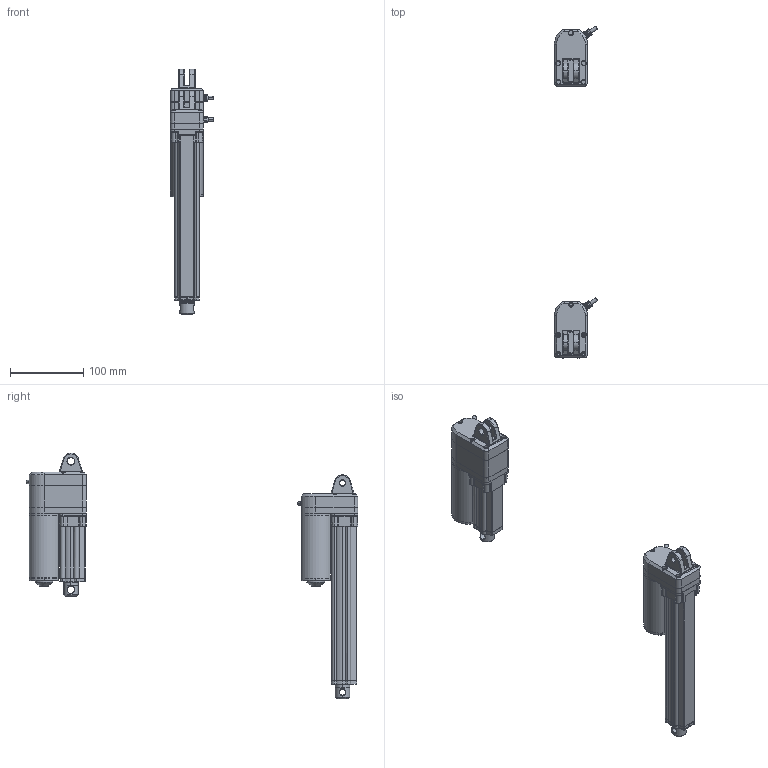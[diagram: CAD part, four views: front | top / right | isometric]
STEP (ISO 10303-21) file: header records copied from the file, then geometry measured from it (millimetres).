
FILE_DESCRIPTION (( 'STEP AP203' ), '1' );
FILE_NAME ('FY-019.STEP', '2022-04-18T09:39:19', ( '' ), ( '' ), 'SwSTEP 2.0', 'SolidWorks 2018', '' );
FILE_SCHEMA (( 'CONFIG_CONTROL_DESIGN' ));
Length unit declared in the file: millimetre
Products named in the file (1): FY-019
Bounding box: 58.8 x 452.19 x 334.5 mm (x, y, z)
Volume: 840502.6 mm3; surface area: 148363.5 mm2
Topology: 2 solids, 16 shells, 2538 faces, 6331 edges, 3851 vertices
Faces by surface type: cylinder 1053, plane 675, torus 429, bspline 180, cone 146, sphere 55
Entity records: 85878 total; most frequent: CARTESIAN_POINT 25294, DIRECTION 13478, ORIENTED_EDGE 12524, EDGE_CURVE 6262, AXIS2_PLACEMENT_3D 5529, VERTEX_POINT 3838, CIRCLE 3170, EDGE_LOOP 2698
